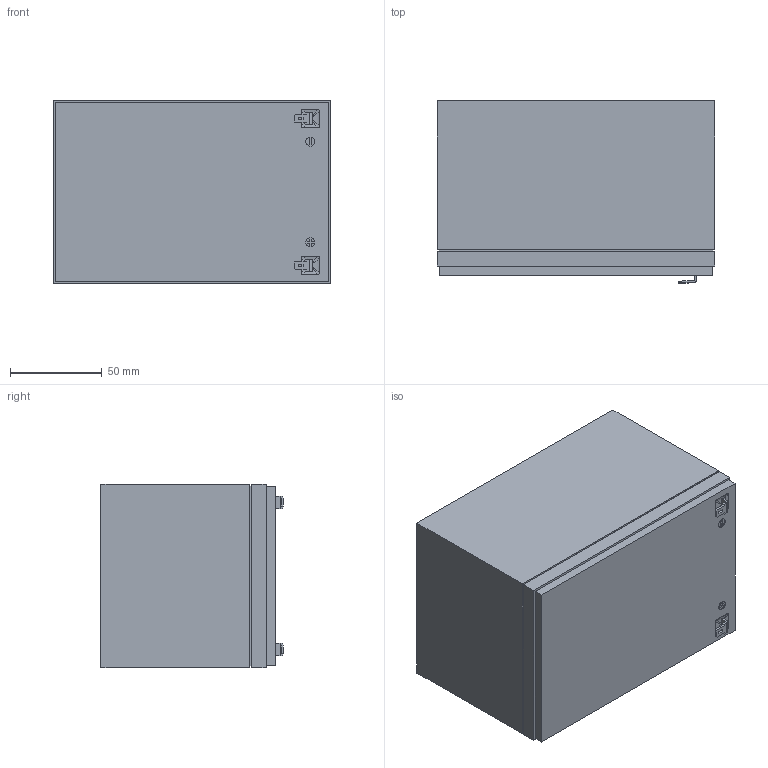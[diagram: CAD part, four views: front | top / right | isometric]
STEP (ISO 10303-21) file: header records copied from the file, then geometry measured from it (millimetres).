
FILE_DESCRIPTION (( 'STEP AP203' ), '1' );
FILE_NAME ('PB 12Ah.STEP', '2018-03-28T11:58:11', ( '' ), ( '' ), 'SwSTEP 2.0', 'SolidWorks 2018', '' );
FILE_SCHEMA (( 'CONFIG_CONTROL_DESIGN' ));
Length unit declared in the file: millimetre
Products named in the file (1): PB 12Ah
Bounding box: 151 x 99.17 x 100 mm (x, y, z)
Volume: 1431548.4 mm3; surface area: 79220 mm2
Topology: 1 solids, 1 shells, 113 faces, 288 edges, 178 vertices
Faces by surface type: plane 79, cylinder 18, bspline 16
Entity records: 3461 total; most frequent: CARTESIAN_POINT 798, ORIENTED_EDGE 556, DIRECTION 476, EDGE_CURVE 278, VECTOR 208, LINE 208, VERTEX_POINT 178, AXIS2_PLACEMENT_3D 134
